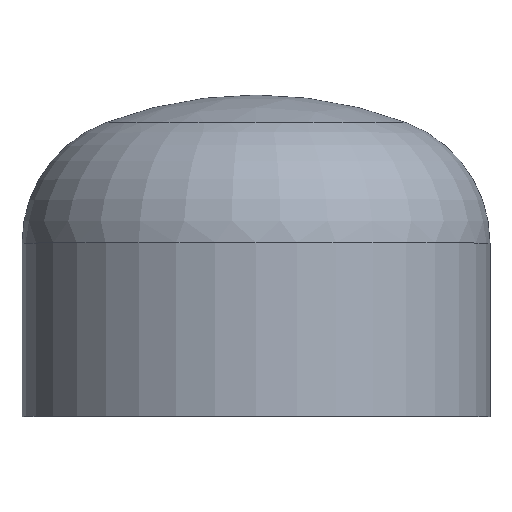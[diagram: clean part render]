
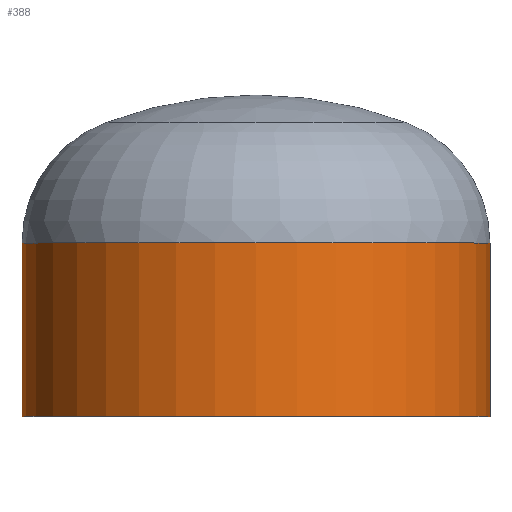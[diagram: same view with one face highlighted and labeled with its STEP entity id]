
A CAD part, top view. The second image highlights one B-rep face of the part: STEP entity #388.
In plain terms, the highlighted cylindrical face has radius 161.95 mm (diameter 323.9 mm), a partial arc.
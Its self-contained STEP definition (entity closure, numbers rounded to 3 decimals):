
#3 = EDGE_LOOP ( 'NONE', ( #113, #270, #328, #79 ) ) ;
#38 = AXIS2_PLACEMENT_3D ( 'NONE', #405, #176, #134 ) ;
#45 = VERTEX_POINT ( 'NONE', #295 ) ;
#64 = VERTEX_POINT ( 'NONE', #304 ) ;
#73 = AXIS2_PLACEMENT_3D ( 'NONE', #321, #317, #316 ) ;
#79 = ORIENTED_EDGE ( 'NONE', *, *, #368, .F. ) ;
#102 = VERTEX_POINT ( 'NONE', #351 ) ;
#113 = ORIENTED_EDGE ( 'NONE', *, *, #128, .T. ) ;
#128 = EDGE_CURVE ( 'NONE', #135, #45, #366, .T. ) ;
#134 = DIRECTION ( 'NONE',  ( 1., 0., 0. ) ) ;
#135 = VERTEX_POINT ( 'NONE', #200 ) ;
#150 = LINE ( 'NONE', #160, #273 ) ;
#155 = CIRCLE ( 'NONE', #38, 161.95 ) ;
#160 = CARTESIAN_POINT ( 'NONE',  ( -161.95, 0., 0. ) ) ;
#171 = DIRECTION ( 'NONE',  ( 0., -1., 0. ) ) ;
#176 = DIRECTION ( 'NONE',  ( 0., -1., 0. ) ) ;
#181 = CYLINDRICAL_SURFACE ( 'NONE', #225, 161.95 ) ;
#190 = FACE_OUTER_BOUND ( 'NONE', #3, .T. ) ;
#200 = CARTESIAN_POINT ( 'NONE',  ( 161.95, 120., 0. ) ) ;
#225 = AXIS2_PLACEMENT_3D ( 'NONE', #403, #355, #399 ) ;
#235 = DIRECTION ( 'NONE',  ( 0., -1., 0. ) ) ;
#259 = VECTOR ( 'NONE', #235, 1000. ) ;
#270 = ORIENTED_EDGE ( 'NONE', *, *, #333, .T. ) ;
#273 = VECTOR ( 'NONE', #171, 1000. ) ;
#295 = CARTESIAN_POINT ( 'NONE',  ( -161.95, 120., 0. ) ) ;
#304 = CARTESIAN_POINT ( 'NONE',  ( -161.95, 0., 0. ) ) ;
#311 = LINE ( 'NONE', #376, #259 ) ;
#316 = DIRECTION ( 'NONE',  ( 1., 0., 0. ) ) ;
#317 = DIRECTION ( 'NONE',  ( 0., -1., 0. ) ) ;
#319 = EDGE_CURVE ( 'NONE', #102, #64, #155, .T. ) ;
#321 = CARTESIAN_POINT ( 'NONE',  ( 0., 120., 0. ) ) ;
#328 = ORIENTED_EDGE ( 'NONE', *, *, #319, .F. ) ;
#333 = EDGE_CURVE ( 'NONE', #45, #64, #150, .T. ) ;
#351 = CARTESIAN_POINT ( 'NONE',  ( 161.95, 0., 0. ) ) ;
#355 = DIRECTION ( 'NONE',  ( 0., -1., 0. ) ) ;
#366 = CIRCLE ( 'NONE', #73, 161.95 ) ;
#368 = EDGE_CURVE ( 'NONE', #135, #102, #311, .T. ) ;
#376 = CARTESIAN_POINT ( 'NONE',  ( 161.95, 0., 0. ) ) ;
#388 = ADVANCED_FACE ( 'NONE', ( #190 ), #181, .T. ) ;
#399 = DIRECTION ( 'NONE',  ( 1., 0., 0. ) ) ;
#403 = CARTESIAN_POINT ( 'NONE',  ( 0., 0., 0. ) ) ;
#405 = CARTESIAN_POINT ( 'NONE',  ( 0., 0., 0. ) ) ;
